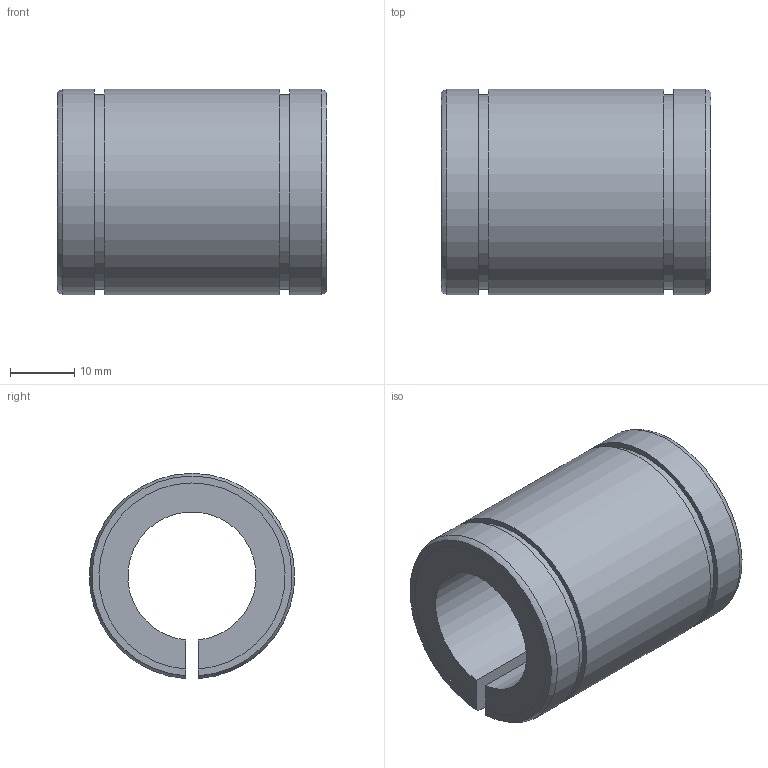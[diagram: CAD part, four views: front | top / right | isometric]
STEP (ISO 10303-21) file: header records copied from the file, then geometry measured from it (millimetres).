
FILE_DESCRIPTION((''),'2;1');
FILE_NAME('D:\製品 (図面)\カタログ用3D\リニアベアリング関連\STEP形式\L-ADJ\L20-ADJ.stp','2010-06-02T17:36:50',('Tsuchiya'),(''),'Autodesk Inventor 10','Autodesk Inventor 10','');
FILE_SCHEMA(('AUTOMOTIVE_DESIGN { 1 0 10303 214 1 1 1 1 }'));
Length unit declared in the file: millimetre
Products named in the file (1): L20-ADJ
Bounding box: 42 x 31.98 x 31.97 mm (x, y, z)
Volume: 19717.9 mm3; surface area: 8395.2 mm2
Topology: 1 solids, 1 shells, 20 faces, 54 edges, 36 vertices
Faces by surface type: plane 10, cylinder 8, torus 2
Entity records: 681 total; most frequent: CARTESIAN_POINT 141, DIRECTION 110, ORIENTED_EDGE 108, EDGE_CURVE 54, AXIS2_PLACEMENT_3D 39, VERTEX_POINT 36, VECTOR 32, LINE 32
